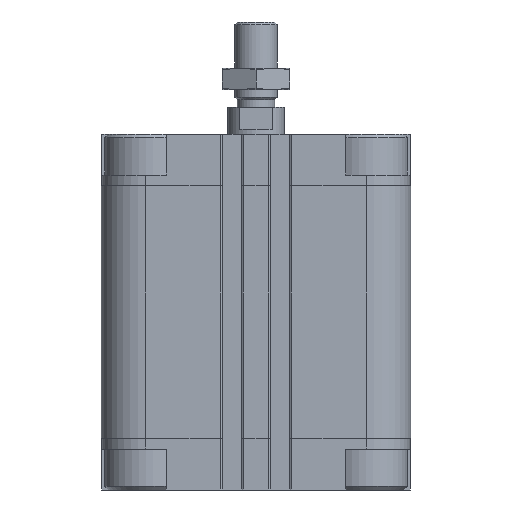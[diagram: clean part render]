
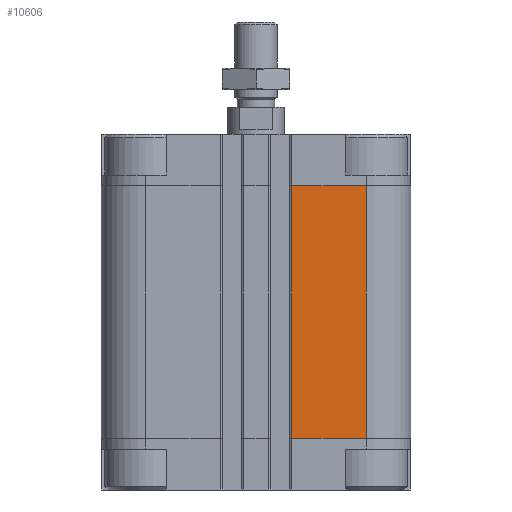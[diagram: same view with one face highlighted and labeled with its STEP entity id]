
A CAD part, front view. The second image highlights one B-rep face of the part: STEP entity #10606.
In plain terms, the highlighted planar face has unit normal (0, -1, 0).
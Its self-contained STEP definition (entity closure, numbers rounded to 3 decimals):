
#1461 = ORIENTED_EDGE ( 'NONE', *, *, #15953, .F. ) ;
#1531 = LINE ( 'NONE', #4661, #14308 ) ;
#1769 = LINE ( 'NONE', #13811, #14200 ) ;
#2155 = CARTESIAN_POINT ( 'NONE',  ( 31., -43.5, -14.5 ) ) ;
#2772 = EDGE_CURVE ( 'NONE', #19660, #12293, #1769, .T. ) ;
#3226 = CARTESIAN_POINT ( 'NONE',  ( 10.05, -43.5, -85.5 ) ) ;
#3933 = CARTESIAN_POINT ( 'NONE',  ( 31., -43.5, -85.5 ) ) ;
#4661 = CARTESIAN_POINT ( 'NONE',  ( 10.05, -43.5, -85.5 ) ) ;
#4861 = VERTEX_POINT ( 'NONE', #3226 ) ;
#4894 = ORIENTED_EDGE ( 'NONE', *, *, #7834, .F. ) ;
#5077 = CARTESIAN_POINT ( 'NONE',  ( 10.05, -43.5, -85.5 ) ) ;
#5105 = PLANE ( 'NONE',  #19854 ) ;
#5211 = EDGE_LOOP ( 'NONE', ( #4894, #1461, #13206, #18813 ) ) ;
#5399 = CARTESIAN_POINT ( 'NONE',  ( 10.05, -43.5, -85.5 ) ) ;
#6320 = DIRECTION ( 'NONE',  ( 0., 0., 1. ) ) ;
#7474 = VECTOR ( 'NONE', #10099, 1000. ) ;
#7834 = EDGE_CURVE ( 'NONE', #17963, #12293, #11620, .T. ) ;
#10065 = FACE_OUTER_BOUND ( 'NONE', #5211, .T. ) ;
#10099 = DIRECTION ( 'NONE',  ( 1., 0., 0. ) ) ;
#10606 = ADVANCED_FACE ( 'NONE', ( #10065 ), #5105, .T. ) ;
#10851 = DIRECTION ( 'NONE',  ( 1., 0., 0. ) ) ;
#11620 = LINE ( 'NONE', #16651, #7474 ) ;
#12293 = VERTEX_POINT ( 'NONE', #2155 ) ;
#13206 = ORIENTED_EDGE ( 'NONE', *, *, #16744, .T. ) ;
#13811 = CARTESIAN_POINT ( 'NONE',  ( 31., -43.5, -85.5 ) ) ;
#14200 = VECTOR ( 'NONE', #6320, 1000. ) ;
#14308 = VECTOR ( 'NONE', #10851, 1000. ) ;
#14495 = CARTESIAN_POINT ( 'NONE',  ( 10.05, -43.5, -14.5 ) ) ;
#15100 = VECTOR ( 'NONE', #18856, 1000. ) ;
#15714 = LINE ( 'NONE', #5077, #15100 ) ;
#15846 = DIRECTION ( 'NONE',  ( 0., -1., 0. ) ) ;
#15953 = EDGE_CURVE ( 'NONE', #4861, #17963, #15714, .T. ) ;
#16142 = DIRECTION ( 'NONE',  ( -1., 0., 0. ) ) ;
#16651 = CARTESIAN_POINT ( 'NONE',  ( 10.05, -43.5, -14.5 ) ) ;
#16744 = EDGE_CURVE ( 'NONE', #4861, #19660, #1531, .T. ) ;
#17963 = VERTEX_POINT ( 'NONE', #14495 ) ;
#18813 = ORIENTED_EDGE ( 'NONE', *, *, #2772, .T. ) ;
#18856 = DIRECTION ( 'NONE',  ( 0., 0., 1. ) ) ;
#19660 = VERTEX_POINT ( 'NONE', #3933 ) ;
#19854 = AXIS2_PLACEMENT_3D ( 'NONE', #5399, #15846, #16142 ) ;
